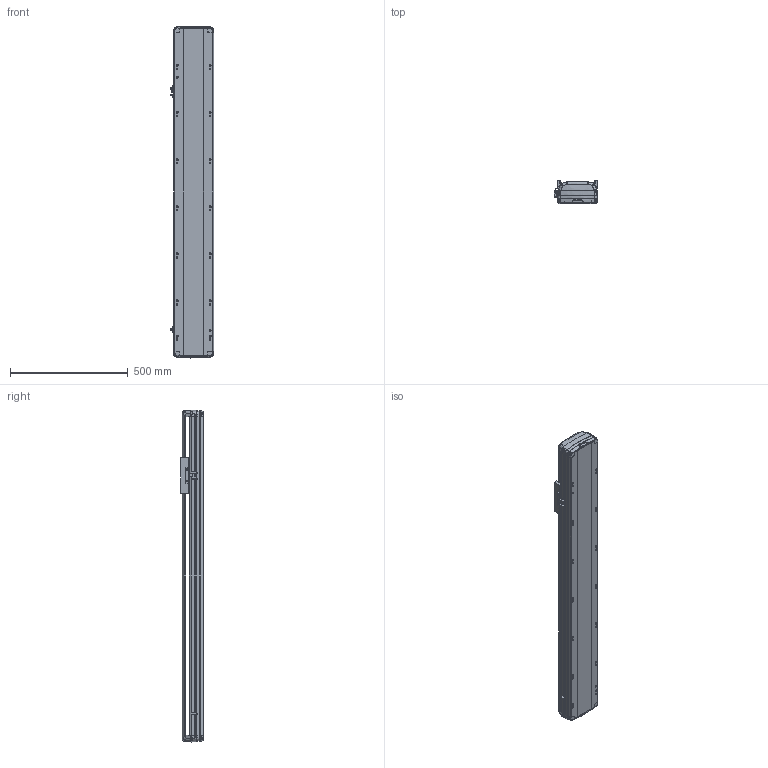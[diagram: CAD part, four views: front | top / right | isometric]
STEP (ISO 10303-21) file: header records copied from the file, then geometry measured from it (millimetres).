
FILE_DESCRIPTION (( 'STEP AP214' ), '1' );
FILE_NAME ('RTH17-XX-1000-B-M40-C4.STEP', '2025-10-24T08:38:50', ( '' ), ( '' ), 'SwSTEP 2.0', 'SolidWorks 2018', '' );
FILE_SCHEMA (( 'AUTOMOTIVE_DESIGN' ));
Length unit declared in the file: millimetre
Products named in the file (7): N_RTH17-M-007上盖^RTH17-XX-XX-B-M40-C4（方程式）; N_RTH17-M-011底座^RTH17-XX-XX-B-M40-C4（方程式）; N_RTH17-E-004丝杆螺母连接座^RTH17-XX-XX-B-M40-C4（方程式）; RTH17-XX-1000-B-M40-C4; N_RTH17-GY-001P^RTH17-XX-XX-B-M40-C4（方程式）; N_RTH-L-012 感应片(外置)^RTH17-XX-XX-B-M40-C4（方程式）; N_OMRON EE-SX672 換覜ん^RTH17-XX-XX-B-M40-C4ㄗ源最宒ㄘ
Assembly tree (9 placements, depth 2):
  RTH17-XX-1000-B-M40-C4
    N_RTH17-M-011底座^RTH17-XX-XX-B-M40-C4（方程式）
    N_RTH17-M-007上盖^RTH17-XX-XX-B-M40-C4（方程式）
    N_OMRON EE-SX672 換覜ん^RTH17-XX-XX-B-M40-C4ㄗ源最宒ㄘ  x3
    N_RTH-L-012 感应片(外置)^RTH17-XX-XX-B-M40-C4（方程式）
    N_RTH17-E-004丝杆螺母连接座^RTH17-XX-XX-B-M40-C4（方程式）
    N_RTH17-GY-001P^RTH17-XX-XX-B-M40-C4（方程式）  x2
Bounding box: 183.5 x 97 x 1409.88 mm (x, y, z)
Volume: 10261121.3 mm3; surface area: 1402977.2 mm2
Topology: 7 solids, 11 shells, 1752 faces, 4934 edges, 3206 vertices
Faces by surface type: plane 813, cylinder 473, bspline 420, cone 28, torus 18
Entity records: 41814 total; most frequent: CARTESIAN_POINT 17297, ORIENTED_EDGE 5372, DIRECTION 4246, EDGE_CURVE 2690, VERTEX_POINT 1760, VECTOR 1454, LINE 1454, AXIS2_PLACEMENT_3D 1396
